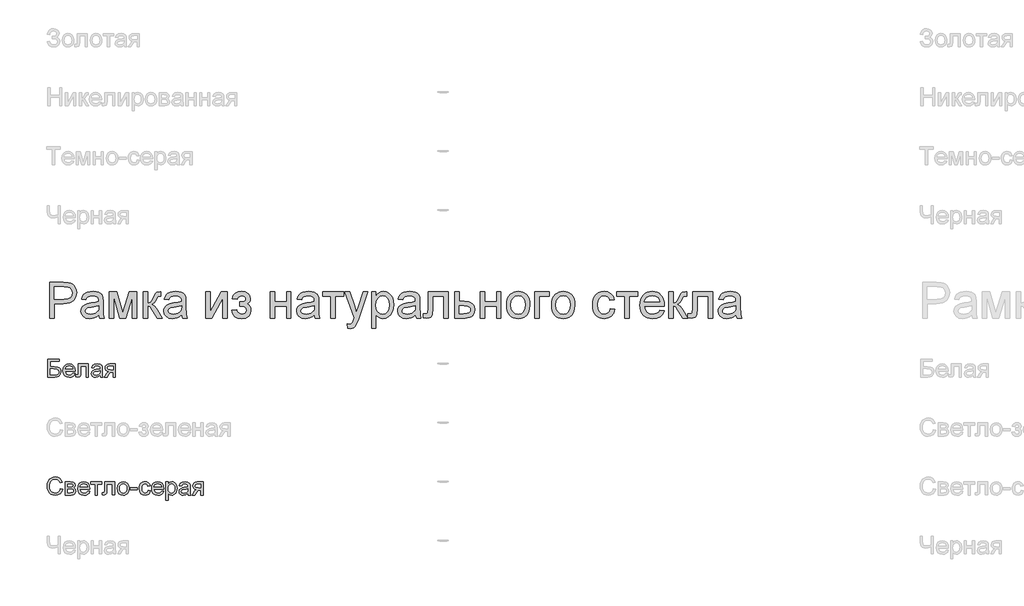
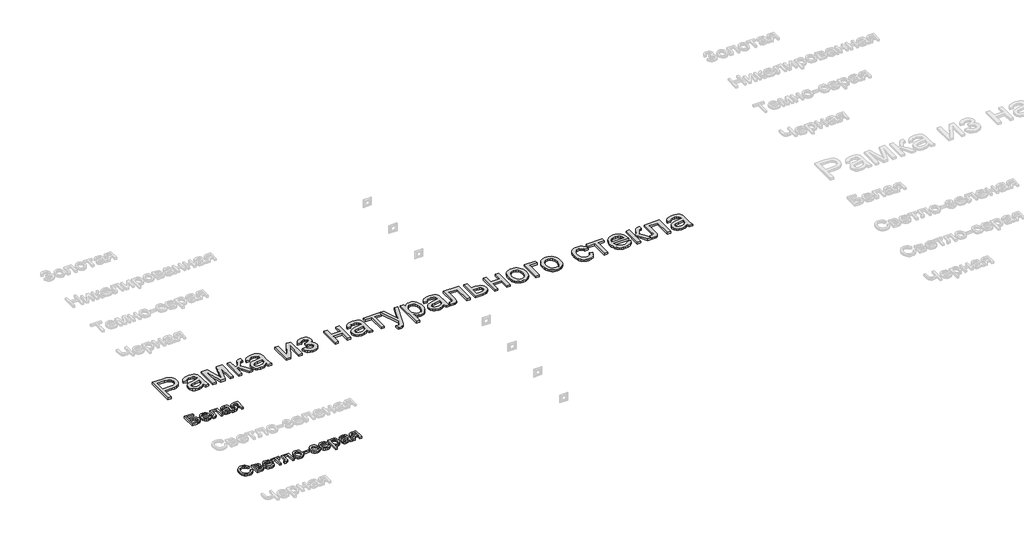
# One storey, part 102 of 168: 3 proxies.
"""IFC4 building model written with IfcOpenShell, lengths in millimetres."""

from ifc_helpers import new_model, si_unit, origin, origin_with_axes, place, context, project, spatial, polyline, outline, extrude, element, save

model = new_model("IFC4")

# Units and contexts
model_context = context("Model", 3, world=origin())
ifc_project = project(units=[si_unit("LENGTHUNIT", "METRE", prefix="MILLI")], contexts=[model_context])

# Site, building, storey
site = spatial("IfcSite", under=ifc_project)
building = spatial("IfcBuilding", under=site)
storey = spatial("IfcBuildingStorey", under=building, Name="Этаж 01", Elevation=0.0)

# Proxies
placement = place(None, origin())
element("IfcBuildingElementProxy", 1, Name="300 мм Arial 2", ObjectType="300 мм Arial 2", at=placement, inside=storey, context=model_context, shape_type="SweptSolid", body=[
    extrude(outline(polyline([(32899.0945017, -16348.4056816), (32899.0945017, -16047.0367511), (33010.7834754, -16047.0367511), (33055.8122316, -16049.9062307), (33075.8893915, -16055.2681108), (33092.4164901, -16063.9961111), (33105.7246213, -16076.4857048), (33116.1448788, -16093.1323651), (33122.8771193, -16112.7680666), (33125.1211995, -16134.224784), (33123.6059855, -16152.7246498), (33119.0603436, -16169.7437906), (33111.4842738, -16185.2822064), (33100.877776, -16199.3398971), (33086.3165468, -16210.9925593), (33066.8762826, -16219.3158895), (33042.5569835, -16224.3098875), (33013.3586494, -16225.9745536), (32936.765618, -16225.9745536), (32936.765618, -16348.4056816), (32899.0945017, -16348.4056816)]), holes=[polyline([(32936.765618, -16188.3034373), (33015.5659413, -16188.3034373), (33048.9696265, -16184.8453465), (33071.0425462, -16174.4710742), (33083.3481989, -16157.824414), (33087.4500832, -16135.5491592), (33085.0312591, -16118.6265874), (33077.7747867, -16104.352766), (33066.581977, -16093.6106117), (33052.3541408, -16087.2830414), (33014.6830245, -16084.7078674), (32936.765618, -16084.7078674), (32936.765618, -16188.3034373)])]), origin_with_axes(), (0.0, 0.0, 1.0), 20.0),
    extrude(outline(polyline([(33313.476781, -16320.1523443), (33295.4781544, -16335.584994), (33276.9460989, -16345.6833548), (33257.4575502, -16351.256767), (33236.589444, -16353.1145711), (33205.1079423, -16348.6448049), (33181.8853914, -16335.2355061), (33167.5655847, -16314.8732377), (33162.7923158, -16289.5445623), (33164.5949376, -16273.9279716), (33170.0028029, -16259.7461207), (33178.3445271, -16247.6060149), (33188.9487257, -16238.1146594), (33215.3258647, -16225.7538244), (33247.9202095, -16220.0884417), (33286.4374544, -16214.1287533), (33313.2560518, -16207.1389954), (33313.476781, -16198.7512859), (33310.883213, -16181.9390788), (33303.1025088, -16170.9394071), (33285.7016904, -16162.7724268), (33261.4582669, -16160.0501), (33239.0174652, -16161.8619189), (33223.3456922, -16167.2973753), (33212.6587202, -16177.3497509), (33205.1723216, -16193.0123268), (33167.5012053, -16188.3034373), (33174.0403078, -16167.7020455), (33183.7983777, -16151.5152378), (33197.685923, -16139.1360086), (33216.6134517, -16129.9573528), (33239.7624262, -16124.273576), (33266.3143092, -16122.3789837), (33291.7809404, -16124.0528468), (33311.9684648, -16129.074436), (33327.1895824, -16136.625214), (33337.7569927, -16145.8866432), (33344.7651447, -16157.3369703), (33349.3084874, -16171.4544419), (33351.1478973, -16204.4166687), (33351.1478973, -16251.2848348), (33353.0608837, -16316.7310418), (33360.5656764, -16348.4056816), (33322.8945601, -16348.4056816), (33313.476781, -16320.1523443)]), holes=[polyline([(33313.476781, -16244.8101117), (33252.7026754, -16256.3616064), (33220.2922716, -16262.4684475), (33205.61378, -16272.4012614), (33200.4634321, -16286.895812), (33203.2685323, -16298.0978187), (33211.683833, -16307.2764745), (33225.525393, -16313.4017097), (33244.6092715, -16315.4434548), (33264.8427813, -16313.1901776), (33282.7218462, -16306.4303459), (33297.2163968, -16296.4699409), (33307.2963635, -16284.6149436), (33311.7661297, -16272.4012614), (33313.2560518, -16255.4786896), (33313.476781, -16244.8101117)])]), origin_with_axes(), (0.0, 0.0, 1.0), 20.0),
    extrude(outline(polyline([(33402.9456823, -16127.0878733), (33467.7664898, -16127.0878733), (33517.7248647, -16304.2598421), (33571.5827888, -16127.0878733), (33633.6812696, -16127.0878733), (33633.6812696, -16348.4056816), (33596.0101533, -16348.4056816), (33596.0101533, -16170.2036431), (33541.8579236, -16348.4056816), (33492.4145835, -16348.4056816), (33440.6167986, -16161.6687808), (33440.6167986, -16348.4056816), (33402.9456823, -16348.4056816), (33402.9456823, -16127.0878733)])), origin_with_axes(), (0.0, 0.0, 1.0), 20.0),
    extrude(outline(polyline([(33690.1879441, -16127.0878733), (33727.8590604, -16127.0878733), (33727.8590604, -16221.265664), (33743.1813455, -16219.5734069), (33753.0957653, -16214.4966353), (33761.8697508, -16201.2528835), (33773.7707334, -16175.0596854), (33790.9508226, -16141.0306009), (33806.1075608, -16129.9573528), (33833.6619222, -16127.0878733), (33840.8724093, -16127.0878733), (33840.8724093, -16164.9797188), (33830.7188662, -16164.7589896), (33812.3247665, -16168.7321151), (33799.3753203, -16193.5273616), (33784.1817939, -16220.345959), (33762.8814263, -16233.4793463), (33774.8191971, -16238.7814455), (33786.6466032, -16248.1394438), (33809.9703217, -16279.0231373), (33850.2901884, -16348.4056816), (33807.4687241, -16348.4056816), (33767.9581979, -16280.4946653), (33748.0925701, -16251.7630814), (33738.8035497, -16246.5483542), (33727.8590604, -16244.8101117), (33727.8590604, -16348.4056816), (33690.1879441, -16348.4056816), (33690.1879441, -16127.0878733)])), origin_with_axes(), (0.0, 0.0, 1.0), 20.0),
    extrude(outline(polyline([(34015.1013222, -16320.1523443), (33997.1026956, -16335.584994), (33978.5706401, -16345.6833548), (33959.0820914, -16351.256767), (33938.2139852, -16353.1145711), (33906.7324835, -16348.6448049), (33883.5099326, -16335.2355061), (33869.1901259, -16314.8732377), (33864.416857, -16289.5445623), (33866.2194788, -16273.9279716), (33871.6273441, -16259.7461207), (33879.9690683, -16247.6060149), (33890.5732669, -16238.1146594), (33916.9504059, -16225.7538244), (33949.5447507, -16220.0884417), (33988.0619956, -16214.1287533), (34014.880593, -16207.1389954), (34015.1013222, -16198.7512859), (34012.5077542, -16181.9390788), (34004.72705, -16170.9394071), (33987.3262316, -16162.7724268), (33963.0828081, -16160.0501), (33940.6420064, -16161.8619189), (33924.9702334, -16167.2973753), (33914.2832614, -16177.3497509), (33906.7968628, -16193.0123268), (33869.1257465, -16188.3034373), (33875.664849, -16167.7020455), (33885.4229189, -16151.5152378), (33899.3104642, -16139.1360086), (33918.2379929, -16129.9573528), (33941.3869674, -16124.273576), (33967.9388504, -16122.3789837), (33993.4054816, -16124.0528468), (34013.593006, -16129.074436), (34028.8141236, -16136.625214), (34039.3815339, -16145.8866432), (34046.3896859, -16157.3369703), (34050.9330286, -16171.4544419), (34052.7724385, -16204.4166687), (34052.7724385, -16251.2848348), (34054.6854249, -16316.7310418), (34062.1902176, -16348.4056816), (34024.5191013, -16348.4056816), (34015.1013222, -16320.1523443)]), holes=[polyline([(34015.1013222, -16244.8101117), (33954.3272166, -16256.3616064), (33921.9168128, -16262.4684475), (33907.2383212, -16272.4012614), (33902.0879733, -16286.895812), (33904.8930735, -16298.0978187), (33913.3083742, -16307.2764745), (33927.1499342, -16313.4017097), (33946.2338127, -16315.4434548), (33966.4673225, -16313.1901776), (33984.3463874, -16306.4303459), (33998.840938, -16296.4699409), (34008.9209047, -16284.6149436), (34013.3906709, -16272.4012614), (34014.880593, -16255.4786896), (34015.1013222, -16244.8101117)])]), origin_with_axes(), (0.0, 0.0, 1.0), 20.0),
    extrude(outline(polyline([(34222.2924619, -16127.0878733), (34259.9635782, -16127.0878733), (34259.9635782, -16295.8721327), (34352.5226882, -16127.0878733), (34401.2302644, -16127.0878733), (34401.2302644, -16348.4056816), (34363.5591481, -16348.4056816), (34363.5591481, -16180.6514918), (34271.5886493, -16348.4056816), (34222.2924619, -16348.4056816), (34222.2924619, -16127.0878733)])), origin_with_axes(), (0.0, 0.0, 1.0), 20.0),
    extrude(outline(polyline([(34509.5347237, -16249.5190013), (34509.5347237, -16211.847885), (34539.259589, -16210.376357), (34554.2691744, -16202.5404705), (34559.5666751, -16195.1920276), (34561.3325087, -16186.1697217), (34558.9688668, -16175.4551586), (34551.8779414, -16167.1502225), (34541.0530137, -16161.8251307), (34527.4873651, -16160.0501), (34513.7745637, -16161.8159336), (34502.2874484, -16167.1134343), (34493.0260192, -16175.9426022), (34485.9902761, -16188.3034373), (34443.6102702, -16183.5945477), (34454.8490652, -16156.8127385), (34471.9371838, -16137.6828747), (34494.8746262, -16126.2049565), (34523.6613924, -16122.3789837), (34555.1520911, -16127.041888), (34578.9908444, -16141.0306009), (34594.0004298, -16161.4940369), (34599.003625, -16185.5811105), (34597.2239958, -16197.9419455), (34591.8851084, -16208.9784054), (34582.9869626, -16218.6904901), (34570.5295585, -16227.0781996), (34585.0700944, -16237.5444423), (34595.4351696, -16250.5490709), (34601.6431783, -16266.1288733), (34603.7125145, -16284.320638), (34598.460999, -16312.0497434), (34582.7064526, -16334.0214956), (34557.515733, -16348.3413022), (34523.955698, -16353.1145711), (34491.1314269, -16348.6999872), (34466.0142837, -16335.4562353), (34448.6042683, -16313.3833156), (34438.9013807, -16282.481228), (34481.2813865, -16277.7723385), (34487.6273509, -16293.7016289), (34498.2775347, -16305.5842173), (34511.9995331, -16312.9786454), (34527.5609415, -16315.4434548), (34542.7176797, -16313.079813), (34555.0785147, -16305.9888875), (34563.3006773, -16295.2191421), (34566.0413982, -16281.8190404), (34564.339944, -16271.2056449), (34559.2355813, -16262.0269891), (34544.7410307, -16251.4319876), (34516.8923636, -16249.2982721), (34509.5347237, -16249.5190013)])), origin_with_axes(), (0.0, 0.0, 1.0), 20.0),
    extrude(outline(polyline([(34768.5236483, -16127.0878733), (34806.1947647, -16127.0878733), (34806.1947647, -16211.847885), (34905.081445, -16211.847885), (34905.081445, -16127.0878733), (34942.7525613, -16127.0878733), (34942.7525613, -16348.4056816), (34905.081445, -16348.4056816), (34905.081445, -16249.5190013), (34806.1947647, -16249.5190013), (34806.1947647, -16348.4056816), (34768.5236483, -16348.4056816), (34768.5236483, -16127.0878733)])), origin_with_axes(), (0.0, 0.0, 1.0), 20.0),
    extrude(outline(polyline([(35140.5259219, -16320.1523443), (35122.5272953, -16335.584994), (35103.9952397, -16345.6833548), (35084.5066911, -16351.256767), (35063.6385849, -16353.1145711), (35032.1570831, -16348.6448049), (35008.9345322, -16335.2355061), (34994.6147255, -16314.8732377), (34989.8414566, -16289.5445623), (34991.6440784, -16273.9279716), (34997.0519438, -16259.7461207), (35005.393668, -16247.6060149), (35015.9978665, -16238.1146594), (35042.3750056, -16225.7538244), (35074.9693503, -16220.0884417), (35113.4865952, -16214.1287533), (35140.3051927, -16207.1389954), (35140.5259219, -16198.7512859), (35137.9323538, -16181.9390788), (35130.1516496, -16170.9394071), (35112.7508312, -16162.7724268), (35088.5074078, -16160.0501), (35066.066606, -16161.8619189), (35050.3948331, -16167.2973753), (35039.7078611, -16177.3497509), (35032.2214625, -16193.0123268), (34994.5503462, -16188.3034373), (35001.0894486, -16167.7020455), (35010.8475186, -16151.5152378), (35024.7350639, -16139.1360086), (35043.6625925, -16129.9573528), (35066.8115671, -16124.273576), (35093.3634501, -16122.3789837), (35118.8300812, -16124.0528468), (35139.0176057, -16129.074436), (35154.2387232, -16136.625214), (35164.8061336, -16145.8866432), (35171.8142856, -16157.3369703), (35176.3576282, -16171.4544419), (35178.1970382, -16204.4166687), (35178.1970382, -16251.2848348), (35180.1100246, -16316.7310418), (35187.6148173, -16348.4056816), (35149.9437009, -16348.4056816), (35140.5259219, -16320.1523443)]), holes=[polyline([(35140.5259219, -16244.8101117), (35079.7518163, -16256.3616064), (35047.3414125, -16262.4684475), (35032.6629209, -16272.4012614), (35027.512573, -16286.895812), (35030.3176732, -16298.0978187), (35038.7329738, -16307.2764745), (35052.5745339, -16313.4017097), (35071.6584124, -16315.4434548), (35091.8919221, -16313.1901776), (35109.7709871, -16306.4303459), (35124.2655377, -16296.4699409), (35134.3455044, -16284.6149436), (35138.8152706, -16272.4012614), (35140.3051927, -16255.4786896), (35140.5259219, -16244.8101117)])]), origin_with_axes(), (0.0, 0.0, 1.0), 20.0),
    extrude(outline(polyline([(35211.1592649, -16127.0878733), (35390.0970674, -16127.0878733), (35390.0970674, -16164.7589896), (35319.4637243, -16164.7589896), (35319.4637243, -16348.4056816), (35281.792608, -16348.4056816), (35281.792608, -16164.7589896), (35211.1592649, -16164.7589896), (35211.1592649, -16127.0878733)])), origin_with_axes(), (0.0, 0.0, 1.0), 20.0),
    extrude(outline(polyline([(35423.0592942, -16433.1656933), (35418.3504046, -16396.8925285), (35437.4802684, -16400.2034665), (35455.3593333, -16396.0463999), (35466.3222168, -16384.4581171), (35476.6229127, -16356.7198147), (35479.5659686, -16347.5963412), (35399.5148465, -16127.0878733), (35439.246102, -16127.0878733), (35481.6996842, -16249.9604597), (35496.4885404, -16299.1094942), (35511.2773966, -16255.6994188), (35554.9082012, -16127.0878733), (35594.3451511, -16127.0878733), (35517.3106613, -16353.7031823), (35497.2978808, -16402.8522169), (35487.0523672, -16418.5423839), (35475.4456903, -16429.4132969), (35461.9628152, -16435.7592613), (35446.0887071, -16437.8745828), (35423.0592942, -16433.1656933)])), origin_with_axes(), (0.0, 0.0, 1.0), 20.0),
    extrude(outline(polyline([(35625.5415443, -16433.1656933), (35625.5415443, -16127.0878733), (35663.2126606, -16127.0878733), (35663.2126606, -16164.0232256), (35675.4999193, -16145.8038698), (35689.2587059, -16132.7900442), (35705.2983609, -16124.9817488), (35724.4282246, -16122.3789837), (35749.9040528, -16126.0210155), (35772.1793076, -16136.9471107), (35790.31589, -16154.4950819), (35803.3757008, -16178.0027414), (35811.2667696, -16205.7594379), (35813.8971258, -16236.0545202), (35810.9264787, -16268.271786), (35802.0145374, -16297.0861432), (35787.4464104, -16321.0352611), (35767.5072063, -16338.6568087), (35744.2846553, -16349.5001305), (35719.8664879, -16353.1145711), (35702.548443, -16350.695747), (35687.0882021, -16343.4392746), (35673.8536473, -16332.4855882), (35663.2126606, -16318.975122), (35663.2126606, -16433.1656933), (35625.5415443, -16433.1656933)]), holes=[polyline([(35663.2126606, -16239.512611), (35667.2869537, -16273.2841782), (35679.509833, -16296.9022022), (35697.5452478, -16310.8081417), (35719.0571475, -16315.4434548), (35740.918535, -16310.6425948), (35759.4138024, -16296.2400147), (35772.0229577, -16271.7574679), (35776.2260095, -16236.7167078), (35772.1241253, -16203.1290817), (35759.8184726, -16179.1799638), (35741.8106489, -16164.832566), (35720.6022519, -16160.0501), (35699.3110814, -16165.1360686), (35680.613479, -16180.3939744), (35667.5628652, -16205.3455707), (35663.2126606, -16239.512611)])]), origin_with_axes(), (0.0, 0.0, 1.0), 20.0),
    extrude(outline(polyline([(35997.5438178, -16320.1523443), (35979.5451912, -16335.584994), (35961.0131357, -16345.6833548), (35941.524587, -16351.256767), (35920.6564808, -16353.1145711), (35889.1749791, -16348.6448049), (35865.9524282, -16335.2355061), (35851.6326215, -16314.8732377), (35846.8593526, -16289.5445623), (35848.6619744, -16273.9279716), (35854.0698397, -16259.7461207), (35862.411564, -16247.6060149), (35873.0157625, -16238.1146594), (35899.3929015, -16225.7538244), (35931.9872463, -16220.0884417), (35970.5044912, -16214.1287533), (35997.3230886, -16207.1389954), (35997.5438178, -16198.7512859), (35994.9502498, -16181.9390788), (35987.1695456, -16170.9394071), (35969.7687272, -16162.7724268), (35945.5253037, -16160.0501), (35923.084502, -16161.8619189), (35907.412729, -16167.2973753), (35896.7257571, -16177.3497509), (35889.2393585, -16193.0123268), (35851.5682421, -16188.3034373), (35858.1073446, -16167.7020455), (35867.8654145, -16151.5152378), (35881.7529599, -16139.1360086), (35900.6804885, -16129.9573528), (35923.8294631, -16124.273576), (35950.3813461, -16122.3789837), (35975.8479772, -16124.0528468), (35996.0355017, -16129.074436), (36011.2566192, -16136.625214), (36021.8240295, -16145.8866432), (36028.8321815, -16157.3369703), (36033.3755242, -16171.4544419), (36035.2149341, -16204.4166687), (36035.2149341, -16251.2848348), (36037.1279205, -16316.7310418), (36044.6327132, -16348.4056816), (36006.9615969, -16348.4056816), (35997.5438178, -16320.1523443)]), holes=[polyline([(35997.5438178, -16244.8101117), (35936.7697122, -16256.3616064), (35904.3593085, -16262.4684475), (35889.6808168, -16272.4012614), (35884.5304689, -16286.895812), (35887.3355691, -16298.0978187), (35895.7508698, -16307.2764745), (35909.5924298, -16313.4017097), (35928.6763083, -16315.4434548), (35948.9098181, -16313.1901776), (35966.788883, -16306.4303459), (35981.2834336, -16296.4699409), (35991.3634003, -16284.6149436), (35995.8331666, -16272.4012614), (35997.3230886, -16255.4786896), (35997.5438178, -16244.8101117)])]), origin_with_axes(), (0.0, 0.0, 1.0), 20.0),
    extrude(outline(polyline([(36105.8482772, -16127.0878733), (36275.3683006, -16127.0878733), (36275.3683006, -16348.1849524), (36237.6971843, -16348.1849524), (36237.6971843, -16164.7589896), (36143.5193935, -16164.7589896), (36143.5193935, -16270.3411222), (36140.9810078, -16319.0486984), (36136.226133, -16330.0759612), (36127.0382801, -16339.6133019), (36113.0955525, -16346.2075866), (36094.0760534, -16348.4056816), (36063.4682714, -16346.4926952), (36063.4682714, -16310.7345653), (36080.3172667, -16310.7345653), (36097.3502031, -16308.4169087), (36104.15602, -16301.0592688), (36105.8482772, -16268.2074066), (36105.8482772, -16127.0878733)])), origin_with_axes(), (0.0, 0.0, 1.0), 20.0),
    extrude(outline(polyline([(36331.8749751, -16127.0878733), (36369.5460914, -16127.0878733), (36369.5460914, -16207.1389954), (36412.9561668, -16207.1389954), (36450.5904949, -16211.857082), (36465.738036, -16217.7546902), (36478.4391619, -16226.0113418), (36488.4823404, -16236.3419281), (36495.6560393, -16248.4613405), (36501.3949984, -16278.0666441), (36496.5113649, -16305.0231973), (36481.8604645, -16327.7675016), (36470.6285673, -16336.7967054), (36456.4674098, -16343.2461366), (36419.3573135, -16348.4056816), (36331.8749751, -16348.4056816), (36331.8749751, -16127.0878733)]), holes=[polyline([(36369.5460914, -16310.7345653), (36404.7156101, -16310.7345653), (36432.0032571, -16308.7571995), (36450.1490365, -16302.8251024), (36460.3301707, -16292.6991504), (36463.7238821, -16278.1402205), (36461.2130875, -16265.8345678), (36453.6807037, -16254.9636548), (36437.5398811, -16247.3484975), (36409.2037704, -16244.8101117), (36369.5460914, -16244.8101117), (36369.5460914, -16310.7345653)])]), origin_with_axes(), (0.0, 0.0, 1.0), 20.0),
    extrude(outline(polyline([(36548.4838938, -16127.0878733), (36586.1550101, -16127.0878733), (36586.1550101, -16211.847885), (36685.0416904, -16211.847885), (36685.0416904, -16127.0878733), (36722.7128067, -16127.0878733), (36722.7128067, -16348.4056816), (36685.0416904, -16348.4056816), (36685.0416904, -16249.5190013), (36586.1550101, -16249.5190013), (36586.1550101, -16348.4056816), (36548.4838938, -16348.4056816), (36548.4838938, -16127.0878733)])), origin_with_axes(), (0.0, 0.0, 1.0), 20.0),
    extrude(outline(polyline([(36769.8017021, -16237.7467774), (36771.8388487, -16209.0841715), (36777.9502883, -16184.385494), (36788.136021, -16163.6507451), (36802.3960469, -16146.8799246), (36816.7526417, -16136.160763), (36832.5991587, -16128.504219), (36849.9355977, -16123.9102925), (36868.7619588, -16122.3789837), (36889.5449923, -16124.2436856), (36908.3368644, -16129.8377912), (36925.1375753, -16139.1613005), (36939.9471249, -16152.2142135), (36952.0343477, -16168.5550719), (36960.6680783, -16187.7424172), (36965.8483166, -16209.7762495), (36967.5750627, -16234.6565687), (36964.5216422, -16272.7139611), (36955.3613805, -16301.6846682), (36940.3609921, -16323.3805088), (36919.7871915, -16339.6133019), (36895.35063, -16349.7392538), (36868.7619588, -16353.1145711), (36847.6754227, -16351.256767), (36828.7088066, -16345.6833548), (36811.8621105, -16336.3943344), (36797.1353344, -16323.3897059), (36785.1768702, -16306.8901984), (36776.6351102, -16287.1165412), (36771.5100541, -16264.0687342), (36769.8017021, -16237.7467774)]), holes=[polyline([(36807.4728184, -16237.673201), (36811.8322201, -16271.7666649), (36824.910425, -16296.0560737), (36844.5921117, -16310.5966095), (36868.7619588, -16315.4434548), (36892.8214413, -16310.5690184), (36912.4663398, -16295.9457091), (36925.5445448, -16271.3344036), (36929.9039464, -16236.4959786), (36925.5169536, -16203.3957961), (36912.3559752, -16179.4374812), (36892.6834855, -16164.8969453), (36868.7619588, -16160.0501), (36844.5921117, -16164.8785512), (36824.910425, -16179.3639048), (36811.8322201, -16203.5981312), (36807.4728184, -16237.673201)])]), origin_with_axes(), (0.0, 0.0, 1.0), 20.0),
    extrude(outline(polyline([(37009.9550686, -16127.0878733), (37132.3861966, -16127.0878733), (37132.3861966, -16164.7589896), (37047.6261849, -16164.7589896), (37047.6261849, -16348.4056816), (37009.9550686, -16348.4056816), (37009.9550686, -16127.0878733)])), origin_with_axes(), (0.0, 0.0, 1.0), 20.0),
    extrude(outline(polyline([(37151.2217547, -16237.7467774), (37153.2589013, -16209.0841715), (37159.3703409, -16184.385494), (37169.5560736, -16163.6507451), (37183.8160995, -16146.8799246), (37198.1726943, -16136.160763), (37214.0192113, -16128.504219), (37231.3556503, -16123.9102925), (37250.1820114, -16122.3789837), (37270.9650449, -16124.2436856), (37289.756917, -16129.8377912), (37306.5576279, -16139.1613005), (37321.3671775, -16152.2142135), (37333.4544003, -16168.5550719), (37342.0881309, -16187.7424172), (37347.2683692, -16209.7762495), (37348.9951153, -16234.6565687), (37345.9416948, -16272.7139611), (37336.7814331, -16301.6846682), (37321.7810447, -16323.3805088), (37301.2072441, -16339.6133019), (37276.7706826, -16349.7392538), (37250.1820114, -16353.1145711), (37229.0954753, -16351.256767), (37210.1288592, -16345.6833548), (37193.2821631, -16336.3943344), (37178.555387, -16323.3897059), (37166.5969228, -16306.8901984), (37158.0551628, -16287.1165412), (37152.9301067, -16264.0687342), (37151.2217547, -16237.7467774)]), holes=[polyline([(37188.892871, -16237.673201), (37193.2522727, -16271.7666649), (37206.3304776, -16296.0560737), (37226.0121643, -16310.5966095), (37250.1820114, -16315.4434548), (37274.2414939, -16310.5690184), (37293.8863924, -16295.9457091), (37306.9645974, -16271.3344036), (37311.323999, -16236.4959786), (37306.9370062, -16203.3957961), (37293.7760278, -16179.4374812), (37274.1035381, -16164.8969453), (37250.1820114, -16160.0501), (37226.0121643, -16164.8785512), (37206.3304776, -16179.3639048), (37193.2522727, -16203.5981312), (37188.892871, -16237.673201)])]), origin_with_axes(), (0.0, 0.0, 1.0), 20.0),
    extrude(outline(polyline([(37650.3640458, -16268.3545594), (37688.0351621, -16273.063449), (37677.5321311, -16306.5683017), (37657.7952621, -16331.88778), (37630.682359, -16347.8078733), (37598.0512261, -16353.1145711), (37576.9233032, -16351.2636648), (37557.9796797, -16345.710946), (37541.2203556, -16336.4564145), (37526.6453308, -16323.5000705), (37514.8478151, -16307.0856357), (37506.4210181, -16287.456832), (37501.3649399, -16264.6136594), (37499.6795805, -16238.5561178), (37502.5582572, -16205.032871), (37511.194287, -16175.9793904), (37525.7256258, -16152.5177162), (37546.2902293, -16135.7698884), (37570.8923378, -16125.7267099), (37597.5361913, -16122.3789837), (37629.3671809, -16126.9775087), (37654.8154179, -16140.7730835), (37673.0715619, -16163.0299442), (37683.3262725, -16193.0123268), (37645.6551562, -16197.7212163), (37638.8217482, -16181.2860882), (37628.1807615, -16169.5046673), (37614.3208073, -16162.4137419), (37597.8304969, -16160.0501), (37573.4859058, -16164.7038073), (37554.162904, -16178.664929), (37541.5537486, -16202.6876233), (37537.3506968, -16237.5260482), (37541.4617781, -16272.8335227), (37553.795022, -16296.9389904), (37572.7685359, -16310.8173387), (37596.8004273, -16315.4434548), (37616.3073701, -16312.5555811), (37632.3010398, -16303.8919602), (37643.9353079, -16289.2318626), (37650.3640458, -16268.3545594)])), origin_with_axes(), (0.0, 0.0, 1.0), 20.0),
    extrude(outline(polyline([(37702.1618307, -16127.0878733), (37881.0996331, -16127.0878733), (37881.0996331, -16164.7589896), (37810.4662901, -16164.7589896), (37810.4662901, -16348.4056816), (37772.7951738, -16348.4056816), (37772.7951738, -16164.7589896), (37702.1618307, -16164.7589896), (37702.1618307, -16127.0878733)])), origin_with_axes(), (0.0, 0.0, 1.0), 20.0),
    extrude(outline(polyline([(38069.0137563, -16282.481228), (38105.9491086, -16287.1901176), (38092.6409774, -16315.0203905), (38071.4049892, -16335.8241173), (38042.7193907, -16348.7919577), (38007.0624283, -16353.1145711), (37983.688126, -16351.2498692), (37962.8614066, -16345.6557637), (37944.5822699, -16336.3322543), (37928.8507161, -16323.2793413), (37916.200174, -16306.860308), (37907.1640725, -16287.4384379), (37901.7424116, -16265.013731), (37899.9351913, -16239.5861874), (37901.7608057, -16213.2964203), (37907.2376489, -16190.1244531), (37916.3657209, -16170.0702859), (37929.1450217, -16153.1339185), (37944.8351888, -16139.6786346), (37962.6958597, -16130.0677174), (37982.7270343, -16124.3011672), (38004.9287127, -16122.3789837), (38026.4153205, -16124.2965686), (38045.8463876, -16130.0493233), (38063.2219141, -16139.6372478), (38078.5419, -16153.0603421), (38091.0475885, -16169.9599213), (38099.9802232, -16189.9773003), (38105.339804, -16213.1124793), (38107.126331, -16239.3654582), (38106.9056018, -16249.5190013), (37937.6063076, -16249.5190013), (37944.127016, -16277.7171562), (37959.2745571, -16298.4473066), (37981.1359447, -16311.1944178), (38007.7981923, -16315.4434548), (38027.847761, -16313.4752861), (38044.7335446, -16307.5707801), (38058.455543, -16297.3620547), (38069.0137563, -16282.481228)]), holes=[polyline([(37937.6063076, -16211.847885), (38069.4552147, -16211.847885), (38064.360049, -16191.945469), (38054.3720529, -16177.7084358), (38032.4094978, -16164.464684), (38004.7815599, -16160.0501), (37979.3885052, -16163.5725701), (37958.3916403, -16174.1399805), (37943.7959222, -16190.6118968), (37937.6063076, -16211.847885)])]), origin_with_axes(), (0.0, 0.0, 1.0), 20.0),
    extrude(outline(polyline([(38347.2796974, -16127.0878733), (38516.7997208, -16127.0878733), (38516.7997208, -16348.1849524), (38479.1286045, -16348.1849524), (38479.1286045, -16164.7589896), (38384.9508137, -16164.7589896), (38384.9508137, -16270.3411222), (38382.412428, -16319.0486984), (38377.6575532, -16330.0759612), (38368.4697004, -16339.6133019), (38354.5269727, -16346.2075866), (38335.5074736, -16348.4056816), (38304.8996916, -16346.4926952), (38304.8996916, -16310.7345653), (38321.748687, -16310.7345653), (38338.7816233, -16308.4169087), (38345.5874403, -16301.0592688), (38347.2796974, -16268.2074066), (38347.2796974, -16127.0878733)])), origin_with_axes(), (0.0, 0.0, 1.0), 20.0),
    extrude(outline(polyline([(38144.7974473, -16127.0878733), (38182.4685636, -16127.0878733), (38182.4685636, -16221.265664), (38197.7908487, -16219.5734069), (38207.7052685, -16214.4966353), (38216.479254, -16201.2528835), (38228.3802366, -16175.0596854), (38245.5603258, -16141.0306009), (38260.717064, -16129.9573528), (38288.2714254, -16127.0878733), (38295.4819125, -16127.0878733), (38295.4819125, -16164.9797188), (38285.3283694, -16164.7589896), (38266.9342697, -16168.7321151), (38253.9848235, -16193.5273616), (38238.7912971, -16220.345959), (38217.4909295, -16233.4793463), (38229.4287003, -16238.7814455), (38241.2561064, -16248.1394438), (38264.5798249, -16279.0231373), (38304.8996916, -16348.4056816), (38262.0782273, -16348.4056816), (38222.5677011, -16280.4946653), (38202.7020733, -16251.7630814), (38193.4130529, -16246.5483542), (38182.4685636, -16244.8101117), (38182.4685636, -16348.4056816), (38144.7974473, -16348.4056816), (38144.7974473, -16127.0878733)])), origin_with_axes(), (0.0, 0.0, 1.0), 20.0),
    extrude(outline(polyline([(38714.5730814, -16320.1523443), (38696.5744548, -16335.584994), (38678.0423993, -16345.6833548), (38658.5538506, -16351.256767), (38637.6857444, -16353.1145711), (38606.2042427, -16348.6448049), (38582.9816917, -16335.2355061), (38568.6618851, -16314.8732377), (38563.8886162, -16289.5445623), (38565.691238, -16273.9279716), (38571.0991033, -16259.7461207), (38579.4408275, -16247.6060149), (38590.045026, -16238.1146594), (38616.4221651, -16225.7538244), (38649.0165099, -16220.0884417), (38687.5337548, -16214.1287533), (38714.3523522, -16207.1389954), (38714.5730814, -16198.7512859), (38711.9795133, -16181.9390788), (38704.1988091, -16170.9394071), (38686.7979908, -16162.7724268), (38662.5545673, -16160.0501), (38640.1137656, -16161.8619189), (38624.4419926, -16167.2973753), (38613.7550206, -16177.3497509), (38606.268622, -16193.0123268), (38568.5975057, -16188.3034373), (38575.1366082, -16167.7020455), (38584.8946781, -16151.5152378), (38598.7822234, -16139.1360086), (38617.7097521, -16129.9573528), (38640.8587266, -16124.273576), (38667.4106096, -16122.3789837), (38692.8772407, -16124.0528468), (38713.0647652, -16129.074436), (38728.2858828, -16136.625214), (38738.8532931, -16145.8866432), (38745.8614451, -16157.3369703), (38750.4047877, -16171.4544419), (38752.2441977, -16204.4166687), (38752.2441977, -16251.2848348), (38754.1571841, -16316.7310418), (38761.6619768, -16348.4056816), (38723.9908605, -16348.4056816), (38714.5730814, -16320.1523443)]), holes=[polyline([(38714.5730814, -16244.8101117), (38653.7989758, -16256.3616064), (38621.388572, -16262.4684475), (38606.7100804, -16272.4012614), (38601.5597325, -16286.895812), (38604.3648327, -16298.0978187), (38612.7801333, -16307.2764745), (38626.6216934, -16313.4017097), (38645.7055719, -16315.4434548), (38665.9390817, -16313.1901776), (38683.8181466, -16306.4303459), (38698.3126972, -16296.4699409), (38708.3926639, -16284.6149436), (38712.8624301, -16272.4012614), (38714.3523522, -16255.4786896), (38714.5730814, -16244.8101117)])]), origin_with_axes(), (0.0, 0.0, 1.0), 20.0),
])
element("IfcBuildingElementProxy", 2, Name="150", ObjectType="150", at=placement, inside=storey, context=model_context, shape_type="SweptSolid", body=[
    extrude(outline(polyline([(32882.6133883, -16697.7212163), (32976.791179, -16697.7212163), (32976.791179, -16716.5567745), (32901.4489464, -16716.5567745), (32901.4489464, -16761.2912251), (32936.7288298, -16761.2912251), (32967.8148584, -16765.1171979), (32978.2167218, -16770.6446248), (32986.3193227, -16779.5749603), (32991.53405, -16791.0712726), (32993.2722924, -16804.2966303), (32988.3242796, -16825.7625448), (32973.5538175, -16842.0781113), (32960.2824745, -16846.823789), (32940.1133441, -16848.4056816), (32882.6133883, -16848.4056816), (32882.6133883, -16697.7212163)]), holes=[polyline([(32901.4489464, -16829.5701234), (32941.8056013, -16829.5701234), (32956.0702257, -16828.015822), (32966.269754, -16823.3529177), (32972.3949892, -16815.5814105), (32974.4367343, -16804.7013005), (32969.7646329, -16789.9492325), (32956.7600044, -16782.0765578), (32928.3779085, -16780.1267833), (32901.4489464, -16780.1267833), (32901.4489464, -16829.5701234)])]), origin_with_axes(), (0.0, 0.0, 1.0), 20.0),
    extrude(outline(polyline([(33094.2926883, -16815.4434548), (33112.7603645, -16817.7978996), (33106.1062989, -16831.713036), (33095.4883048, -16842.1148995), (33081.1455055, -16848.5988196), (33063.3170243, -16850.7601263), (33041.2165134, -16847.0307226), (33024.2111682, -16835.8425114), (33013.3678464, -16817.9220597), (33009.7534058, -16793.9959345), (33013.4046346, -16769.2650674), (33024.358321, -16750.7698), (33041.13374, -16739.2366995), (33062.2501665, -16735.3923327), (33082.709004, -16739.2275025), (33099.0567601, -16750.7330118), (33109.7759218, -16769.191491), (33113.3489756, -16793.8855699), (33113.2386111, -16798.9623414), (33028.588964, -16798.9623414), (33031.8493181, -16813.0614189), (33039.4230887, -16823.4264941), (33050.3537825, -16829.8000497), (33063.6849063, -16831.9245682), (33082.1525825, -16827.9882308), (33094.2926883, -16815.4434548)]), holes=[polyline([(33028.588964, -16780.1267833), (33094.5134175, -16780.1267833), (33091.9658347, -16770.1755753), (33086.9718366, -16763.0570587), (33075.990559, -16756.4351828), (33062.1765901, -16754.2278908), (33049.4800628, -16755.9891259), (33038.9816303, -16761.272831), (33031.6837712, -16769.5087892), (33028.588964, -16780.1267833)])]), origin_with_axes(), (0.0, 0.0, 1.0), 20.0),
    extrude(outline(polyline([(33141.6023129, -16737.7467774), (33226.3623246, -16737.7467774), (33226.3623246, -16848.295317), (33207.5267664, -16848.295317), (33207.5267664, -16756.5823356), (33160.437871, -16756.5823356), (33160.437871, -16809.3734019), (33159.1686781, -16833.72719), (33152.1973143, -16844.0094917), (33135.716201, -16848.4056816), (33120.41231, -16847.4491884), (33120.41231, -16829.5701234), (33128.8368076, -16829.5701234), (33137.3532758, -16828.4112951), (33140.7561843, -16824.7324752), (33141.6023129, -16808.3065441), (33141.6023129, -16737.7467774)])), origin_with_axes(), (0.0, 0.0, 1.0), 20.0),
    extrude(outline(polyline([(33325.2490049, -16834.279013), (33306.9836638, -16847.0445182), (33286.8053364, -16850.7601263), (33271.0645855, -16848.5252432), (33259.45331, -16841.8205939), (33252.2934067, -16831.6394596), (33249.9067723, -16818.975122), (33253.5120158, -16804.0759012), (33262.9849772, -16793.2601705), (33276.1735467, -16787.079753), (33292.4707191, -16784.2470616), (33325.1386403, -16777.7723385), (33325.2490049, -16773.5784838), (33323.9522208, -16765.1723802), (33320.0618687, -16759.6725443), (33311.3614596, -16755.5890542), (33299.2397478, -16754.2278908), (33280.1834605, -16757.8515285), (33271.0967752, -16770.7090042), (33252.261217, -16768.3545594), (33260.4098032, -16749.9604597), (33276.8173402, -16739.1815172), (33301.667769, -16735.3923327), (33324.4948468, -16738.7400588), (33337.3891107, -16747.1461624), (33343.164858, -16759.9300617), (33344.084563, -16776.4111751), (33344.084563, -16799.8452582), (33345.0410562, -16832.5683617), (33348.7934526, -16848.4056816), (33329.9578944, -16848.4056816), (33325.2490049, -16834.279013)]), holes=[polyline([(33325.2490049, -16796.6078966), (33294.8619521, -16802.383644), (33278.6567502, -16805.4370645), (33271.3175044, -16810.4034715), (33268.7423304, -16817.6507468), (33274.3525308, -16827.841078), (33290.8152501, -16831.9245682), (33309.8715375, -16827.4180137), (33322.1587961, -16816.5103126), (33325.1386403, -16801.9421856), (33325.2490049, -16796.6078966)])]), origin_with_axes(), (0.0, 0.0, 1.0), 20.0),
    extrude(outline(polyline([(33454.7434672, -16737.7467774), (33454.7434672, -16848.4056816), (33435.907909, -16848.4056816), (33435.907909, -16806.0256757), (33425.6440014, -16806.0256757), (33411.6644855, -16808.4169087), (33398.5310983, -16824.4933519), (33383.5215129, -16848.4056816), (33361.7428988, -16848.4056816), (33380.6520333, -16818.1657816), (33389.0029546, -16807.3132627), (33396.6916883, -16802.4940086), (33383.8158185, -16798.5484742), (33374.7659214, -16791.0528785), (33369.4132384, -16781.0832765), (33367.6290107, -16769.7157228), (33370.0662289, -16756.8214589), (33377.3778836, -16746.6127335), (33389.3064573, -16739.9632664), (33405.5944326, -16737.7467774), (33454.7434672, -16737.7467774)]), holes=[polyline([(33435.907909, -16756.5823356), (33411.0758743, -16756.5823356), (33398.2505883, -16757.672186), (33390.9711233, -16760.9417372), (33386.4645689, -16771.1504626), (33388.1246364, -16778.32876), (33393.1048389, -16783.3089625), (33416.6308925, -16787.1901176), (33435.907909, -16787.1901176), (33435.907909, -16756.5823356)])]), origin_with_axes(), (0.0, 0.0, 1.0), 20.0),
])
element("IfcBuildingElementProxy", 3, Name="150", ObjectType="150", at=placement, inside=storey, context=model_context, shape_type="SweptSolid", body=[
    extrude(outline(polyline([(32988.5634029, -17794.8420631), (33007.398961, -17799.6981054), (32998.7077489, -17821.6468649), (32985.0685239, -17837.6819214), (32967.1526708, -17847.4905751), (32945.631574, -17850.7601263), (32923.7839821, -17848.2861199), (32906.4337475, -17840.8641007), (32893.1348133, -17828.751586), (32883.4411228, -17812.2060932), (32877.5228212, -17792.7543327), (32875.550054, -17771.9230148), (32877.7803386, -17749.9512626), (32884.4711923, -17730.9777487), (32895.2731274, -17715.6048798), (32909.8366559, -17704.4350628), (32927.1087156, -17697.6338444), (32946.0362442, -17695.3667716), (32966.6882197, -17698.3006305), (32983.7625428, -17707.1022072), (32996.7257847, -17721.2288758), (33005.0445163, -17740.1380104), (32986.2089581, -17744.6261707), (32979.6790527, -17730.8903767), (32970.7579143, -17721.4679991), (32959.3351784, -17716.0187471), (32945.3004803, -17714.2023297), (32929.1228695, -17716.2164837), (32915.8331324, -17722.2589454), (32905.7485672, -17731.6951186), (32899.1864722, -17743.8904067), (32894.3856121, -17771.8862266), (32895.8065563, -17789.2870449), (32900.0693889, -17804.3334185), (32907.3350583, -17816.4505318), (32917.7645129, -17825.063569), (32930.2679022, -17830.2093184), (32943.7553759, -17831.9245682), (32959.4777326, -17829.5885175), (32972.5789302, -17822.5803655), (32982.4703573, -17810.9736886), (32988.5634029, -17794.8420631)])), origin_with_axes(), (0.0, 0.0, 1.0), 20.0),
    extrude(outline(polyline([(33030.9434087, -17737.7467774), (33072.4404978, -17737.7467774), (33095.1939992, -17740.2667691), (33107.9962926, -17749.5006072), (33113.3489756, -17765.5954445), (33110.1116141, -17778.6736494), (33100.3627412, -17787.999458), (33113.0178819, -17798.2081833), (33118.0578652, -17815.9584896), (33114.8664889, -17830.3150845), (33107.2789227, -17840.4226423), (33095.2675756, -17846.4099217), (33078.8048563, -17848.4056816), (33030.9434087, -17848.4056816), (33030.9434087, -17737.7467774)]), holes=[polyline([(33049.7789669, -17780.1267833), (33068.3937958, -17780.1267833), (33083.7528691, -17779.1702901), (33091.2208736, -17775.3443173), (33094.5134175, -17768.4281358), (33093.0694807, -17762.8087383), (33088.7376702, -17759.1942977), (33068.982407, -17756.5823356), (33049.7789669, -17756.5823356), (33049.7789669, -17780.1267833)]), polyline([(33049.7789669, -17829.5701234), (33072.8819562, -17829.5701234), (33093.3729833, -17826.167215), (33097.6128233, -17821.5273033), (33099.222307, -17814.4133852), (33096.0033396, -17805.345094), (33087.6156301, -17800.0659874), (33071.0425462, -17798.9623414), (33049.7789669, -17798.9623414), (33049.7789669, -17829.5701234)])]), origin_with_axes(), (0.0, 0.0, 1.0), 20.0),
    extrude(outline(polyline([(33219.0782611, -17815.4434548), (33237.5459372, -17817.7978996), (33230.8918716, -17831.713036), (33220.2738775, -17842.1148995), (33205.9310783, -17848.5988196), (33188.1025971, -17850.7601263), (33166.0020862, -17847.0307226), (33148.996741, -17835.8425114), (33138.1534192, -17817.9220597), (33134.5389786, -17793.9959345), (33138.1902074, -17769.2650674), (33149.1438938, -17750.7698), (33165.9193128, -17739.2366995), (33187.0357393, -17735.3923327), (33207.4945767, -17739.2275025), (33223.8423329, -17750.7330118), (33234.5614945, -17769.191491), (33238.1345484, -17793.8855699), (33238.0241838, -17798.9623414), (33153.3745367, -17798.9623414), (33156.6348909, -17813.0614189), (33164.2086615, -17823.4264941), (33175.1393553, -17829.8000497), (33188.4704791, -17831.9245682), (33206.9381552, -17827.9882308), (33219.0782611, -17815.4434548)]), holes=[polyline([(33153.3745367, -17780.1267833), (33219.2989903, -17780.1267833), (33216.7514074, -17770.1755753), (33211.7574094, -17763.0570587), (33200.7761318, -17756.4351828), (33186.9621629, -17754.2278908), (33174.2656355, -17755.9891259), (33163.7672031, -17761.272831), (33156.469344, -17769.5087892), (33153.3745367, -17780.1267833)])]), origin_with_axes(), (0.0, 0.0, 1.0), 20.0),
    extrude(outline(polyline([(33247.5523275, -17737.7467774), (33337.0212287, -17737.7467774), (33337.0212287, -17756.5823356), (33301.7045572, -17756.5823356), (33301.7045572, -17848.4056816), (33282.868999, -17848.4056816), (33282.868999, -17756.5823356), (33247.5523275, -17756.5823356), (33247.5523275, -17737.7467774)])), origin_with_axes(), (0.0, 0.0, 1.0), 20.0),
    extrude(outline(polyline([(33362.9201212, -17737.7467774), (33447.6801329, -17737.7467774), (33447.6801329, -17848.295317), (33428.8445747, -17848.295317), (33428.8445747, -17756.5823356), (33381.7556793, -17756.5823356), (33381.7556793, -17809.3734019), (33380.4864864, -17833.72719), (33373.5151226, -17844.0094917), (33357.0340093, -17848.4056816), (33341.7301183, -17847.4491884), (33341.7301183, -17829.5701234), (33350.1546159, -17829.5701234), (33358.6710841, -17828.4112951), (33362.0739926, -17824.7324752), (33362.9201212, -17808.3065441), (33362.9201212, -17737.7467774)])), origin_with_axes(), (0.0, 0.0, 1.0), 20.0),
    extrude(outline(polyline([(33471.2245806, -17793.0762295), (33475.2988737, -17766.3955878), (33487.5217529, -17747.6428031), (33502.6233088, -17738.4549503), (33520.7047089, -17735.3923327), (33540.4921617, -17739.1217364), (33556.2972919, -17750.3099476), (33566.6577686, -17768.0740494), (33570.1112609, -17791.5311251), (33568.5845506, -17810.5598213), (33564.0044197, -17825.0451749), (33556.5042256, -17835.8930952), (33546.2173253, -17844.0094917), (33533.9990445, -17849.0724677), (33520.7047089, -17850.7601263), (33500.6781328, -17847.0445182), (33484.8913967, -17835.8976937), (33474.6412846, -17817.7611114), (33471.2245806, -17793.0762295)]), holes=[polyline([(33490.0601387, -17793.0394413), (33492.2398395, -17810.0861732), (33498.778942, -17822.2308776), (33508.6197854, -17829.5011455), (33520.7047089, -17831.9245682), (33532.7344502, -17829.48735), (33542.5568994, -17822.1756953), (33549.0960019, -17809.8700426), (33551.2757027, -17792.4508301), (33549.0822063, -17775.9007388), (33542.5017171, -17763.9215814), (33532.6654723, -17756.6513134), (33520.7047089, -17754.2278908), (33508.6197854, -17756.6421164), (33498.778942, -17763.8847932), (33492.2398395, -17776.0019064), (33490.0601387, -17793.0394413)])]), origin_with_axes(), (0.0, 0.0, 1.0), 20.0),
    extrude(outline(polyline([(33581.8834847, -17803.671231), (33581.8834847, -17784.8356728), (33640.7446039, -17784.8356728), (33640.7446039, -17803.671231), (33581.8834847, -17803.671231)])), origin_with_axes(), (0.0, 0.0, 1.0), 20.0),
    extrude(outline(polyline([(33732.5679499, -17808.3801205), (33751.4035081, -17810.7345653), (33746.1519926, -17827.4869916), (33736.2835581, -17840.1467308), (33722.7271066, -17848.1067774), (33706.4115401, -17850.7601263), (33686.3757669, -17847.0583138), (33670.7085924, -17835.952876), (33660.5964361, -17817.9312568), (33657.2257173, -17793.4808997), (33658.6650556, -17776.7192763), (33662.9830705, -17762.192536), (33670.2487399, -17750.4616989), (33680.5310417, -17742.087785), (33692.8320959, -17737.0661957), (33706.1540227, -17735.3923327), (33722.0695175, -17737.6915951), (33734.793636, -17744.5893825), (33743.921708, -17755.7178129), (33749.0490633, -17770.7090042), (33730.2135052, -17773.063449), (33721.4763078, -17758.9551744), (33706.3011755, -17754.2278908), (33694.12888, -17756.5547444), (33684.4673791, -17763.5353053), (33678.1628014, -17775.5466524), (33676.0612755, -17792.9658649), (33678.1168161, -17810.6196021), (33684.2834381, -17822.672336), (33693.770195, -17829.6115101), (33705.7861407, -17831.9245682), (33715.5396121, -17830.4806314), (33723.5364469, -17826.1488209), (33729.353581, -17818.8187721), (33732.5679499, -17808.3801205)])), origin_with_axes(), (0.0, 0.0, 1.0), 20.0),
    extrude(outline(polyline([(33845.3605697, -17815.4434548), (33863.8282458, -17817.7978996), (33857.1741802, -17831.713036), (33846.5561861, -17842.1148995), (33832.2133868, -17848.5988196), (33814.3849057, -17850.7601263), (33792.2843948, -17847.0307226), (33775.2790496, -17835.8425114), (33764.4357278, -17817.9220597), (33760.8212872, -17793.9959345), (33764.472516, -17769.2650674), (33775.4262024, -17750.7698), (33792.2016213, -17739.2366995), (33813.3180479, -17735.3923327), (33833.7768853, -17739.2275025), (33850.1246415, -17750.7330118), (33860.8438031, -17769.191491), (33864.416857, -17793.8855699), (33864.3064924, -17798.9623414), (33779.6568453, -17798.9623414), (33782.9171995, -17813.0614189), (33790.4909701, -17823.4264941), (33801.4216639, -17829.8000497), (33814.7527877, -17831.9245682), (33833.2204638, -17827.9882308), (33845.3605697, -17815.4434548)]), holes=[polyline([(33779.6568453, -17780.1267833), (33845.5812988, -17780.1267833), (33843.033716, -17770.1755753), (33838.0397179, -17763.0570587), (33827.0584404, -17756.4351828), (33813.2444715, -17754.2278908), (33800.5479441, -17755.9891259), (33790.0495117, -17761.272831), (33782.7516526, -17769.5087892), (33779.6568453, -17780.1267833)])]), origin_with_axes(), (0.0, 0.0, 1.0), 20.0),
    extrude(outline(polyline([(33883.2524152, -17890.7856874), (33883.2524152, -17737.7467774), (33902.0879733, -17737.7467774), (33902.0879733, -17756.2144536), (33915.1109959, -17740.5978629), (33932.6957553, -17735.3923327), (33945.4336694, -17737.2133485), (33956.5712968, -17742.6763962), (33965.639588, -17751.4503817), (33972.1694934, -17763.2042115), (33977.4302059, -17792.2301009), (33975.9448824, -17808.3387338), (33971.4889117, -17822.7459124), (33964.2048482, -17834.7204713), (33954.2352461, -17843.5312451), (33942.6239707, -17848.952906), (33930.4148869, -17850.7601263), (33914.0257441, -17845.9224781), (33902.0879733, -17833.6904018), (33902.0879733, -17890.7856874), (33883.2524152, -17890.7856874)]), holes=[polyline([(33902.0879733, -17793.9591463), (33904.1251199, -17810.8449299), (33910.2365595, -17822.6539419), (33919.2542669, -17829.6069116), (33930.0102167, -17831.9245682), (33940.9409105, -17829.5241382), (33950.1885442, -17822.3228481), (33956.4931219, -17810.0815747), (33958.5946478, -17792.5611947), (33956.5437056, -17775.7673816), (33950.3908793, -17763.7928227), (33941.3869674, -17756.6191238), (33930.7827689, -17754.2278908), (33920.1371837, -17756.7708751), (33910.7883825, -17764.399828), (33904.2630756, -17776.8756261), (33902.0879733, -17793.9591463)])]), origin_with_axes(), (0.0, 0.0, 1.0), 20.0),
    extrude(outline(polyline([(34069.2535519, -17834.279013), (34050.9882109, -17847.0445182), (34030.8098834, -17850.7601263), (34015.0691326, -17848.5252432), (34003.4578571, -17841.8205939), (33996.2979537, -17831.6394596), (33993.9113193, -17818.975122), (33997.5165629, -17804.0759012), (34006.9895242, -17793.2601705), (34020.1780938, -17787.079753), (34036.4752661, -17784.2470616), (34069.1431873, -17777.7723385), (34069.2535519, -17773.5784838), (34067.9567679, -17765.1723802), (34064.0664158, -17759.6725443), (34055.3660066, -17755.5890542), (34043.2442949, -17754.2278908), (34024.1880075, -17757.8515285), (34015.1013222, -17770.7090042), (33996.2657641, -17768.3545594), (34004.4143503, -17749.9604597), (34020.8218873, -17739.1815172), (34045.672316, -17735.3923327), (34068.4993938, -17738.7400588), (34081.3936578, -17747.1461624), (34087.1694051, -17759.9300617), (34088.0891101, -17776.4111751), (34088.0891101, -17799.8452582), (34089.0456033, -17832.5683617), (34092.7979996, -17848.4056816), (34073.9624415, -17848.4056816), (34069.2535519, -17834.279013)]), holes=[polyline([(34069.2535519, -17796.6078966), (34038.8664991, -17802.383644), (34022.6612972, -17805.4370645), (34015.3220514, -17810.4034715), (34012.7468775, -17817.6507468), (34018.3570779, -17827.841078), (34034.8197972, -17831.9245682), (34053.8760845, -17827.4180137), (34066.1633432, -17816.5103126), (34069.1431873, -17801.9421856), (34069.2535519, -17796.6078966)])]), origin_with_axes(), (0.0, 0.0, 1.0), 20.0),
    extrude(outline(polyline([(34198.7480142, -17737.7467774), (34198.7480142, -17848.4056816), (34179.9124561, -17848.4056816), (34179.9124561, -17806.0256757), (34169.6485484, -17806.0256757), (34155.6690326, -17808.4169087), (34142.5356454, -17824.4933519), (34127.52606, -17848.4056816), (34105.7474458, -17848.4056816), (34124.6565804, -17818.1657816), (34133.0075017, -17807.3132627), (34140.6962354, -17802.4940086), (34127.8203655, -17798.5484742), (34118.7704685, -17791.0528785), (34113.4177854, -17781.0832765), (34111.6335578, -17769.7157228), (34114.070776, -17756.8214589), (34121.3824306, -17746.6127335), (34133.3110043, -17739.9632664), (34149.5989797, -17737.7467774), (34198.7480142, -17737.7467774)]), holes=[polyline([(34179.9124561, -17756.5823356), (34155.0804214, -17756.5823356), (34142.2551353, -17757.672186), (34134.9756704, -17760.9417372), (34130.4691159, -17771.1504626), (34132.1291834, -17778.32876), (34137.1093859, -17783.3089625), (34160.6354395, -17787.1901176), (34179.9124561, -17787.1901176), (34179.9124561, -17756.5823356)])]), origin_with_axes(), (0.0, 0.0, 1.0), 20.0),
])

save(model, "model.ifc")
